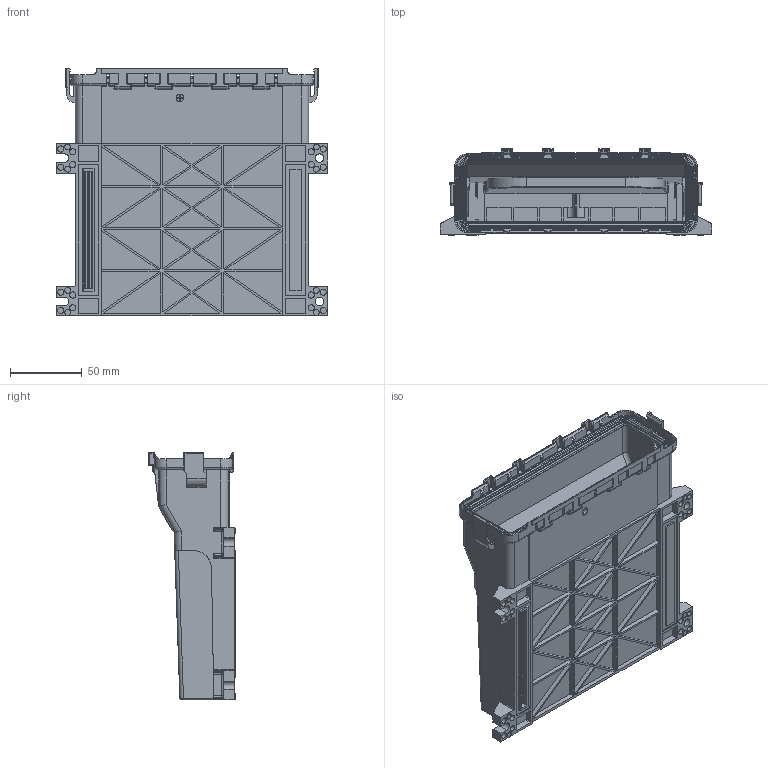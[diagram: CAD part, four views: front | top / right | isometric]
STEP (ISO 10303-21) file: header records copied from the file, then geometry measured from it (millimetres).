
FILE_DESCRIPTION((''),'2;1');
FILE_NAME('5810160038_ASM','2008-07-08T',('eake'),(''),'PRO/ENGINEER BY PARAMETRIC TECHNOLOGY CORPORATION, 2005451','PRO/ENGINEER BY PARAMETRIC TECHNOLOGY CORPORATION, 2005451','');
FILE_SCHEMA(('CONFIG_CONTROL_DESIGN'));
Products named in the file (7): 4828770199; 4630899182_SEAL60; 4630899190_HSINK_EX; 4741109047; 5810160031_EPOXY; 4639901015; 5810160038_ASM
Assembly tree (7 placements, depth 2):
  5810160038_ASM
    4828770199
    4630899182_SEAL60
    4630899190_HSINK_EX
    4741109047
    5810160031_EPOXY  x2
    4639901015
Bounding box: 189.23 x 60.33 x 172.72 mm (x, y, z)
Volume: 244406.9 mm3; surface area: 207270.4 mm2
Topology: 7 solids, 7 shells, 2642 faces, 6409 edges, 3879 vertices
Faces by surface type: plane 1183, cylinder 923, torus 224, bspline 114, sphere 106, extrusion 72, cone 20
Entity records: 89643 total; most frequent: CARTESIAN_POINT 28614, ORIENTED_EDGE 12698, DIRECTION 12626, EDGE_CURVE 6349, AXIS2_PLACEMENT_3D 4336, VECTOR 3954, LINE 3882, VERTEX_POINT 3839
